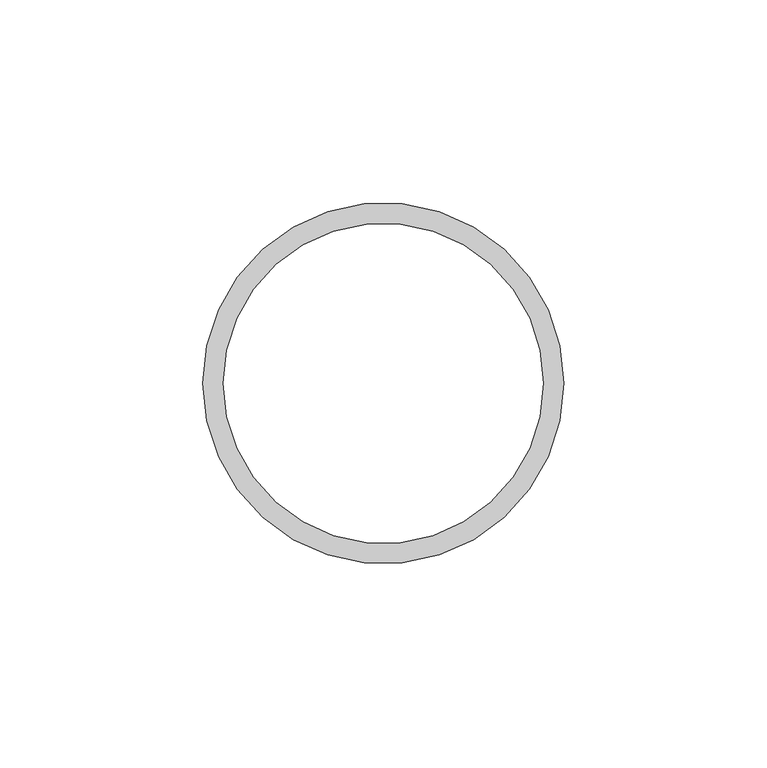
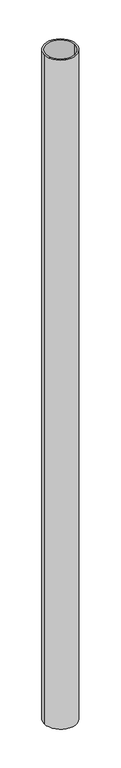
"""IFC4 building model written with IfcOpenShell, lengths in millimetres: column geometry, NLRS_28_SC_TLB_kolom buis_generiek_ISR : ø88.9x5 ."""

import ifcopenshell
import ifcopenshell.guid

model = None  # the IFC model being written
_history = None  # IfcOwnerHistory: only IFC2X3 demands one
_inside = {}  # id of a spatial element -> (the spatial element, [elements in it])
_under = {}  # id of a project, library or spatial element -> (it, [spatial elements below it])
_declared = {}  # id of a project -> (the project, [libraries it declares])
_typed = {}  # id of a type object -> (the type object, [elements of that type])
_made_of = {}  # id of a material, layer set ... -> (it, [elements and type objects made of it])


def new_model(schema):
    """Start an empty IFC model of exactly this schema.

    Asked for "IFC4X3", IfcOpenShell would pick the latest addendum, in which some entities
    have other attributes; the version numbers below select the first issue.
    IFC2X3 requires an IfcOwnerHistory on every rooted entity: one is made here for all.
    """
    global model, _history
    if schema == "IFC4X3":
        model = ifcopenshell.file(schema_version=(4, 3, 0, 0))
    else:
        model = ifcopenshell.file(schema=schema)
    _inside.clear()
    _under.clear()
    _declared.clear()
    _typed.clear()
    _made_of.clear()
    _history = None
    if model.schema == "IFC2X3":
        org = make("IfcOrganization", Name="unknown")
        user = make(
            "IfcPersonAndOrganization",
            ThePerson=make("IfcPerson", FamilyName="unknown"),
            TheOrganization=org,
        )
        app = make(
            "IfcApplication",
            ApplicationDeveloper=org,
            Version="unknown",
            ApplicationFullName="unknown",
            ApplicationIdentifier="unknown",
        )
        _history = make(
            "IfcOwnerHistory",
            OwningUser=user,
            OwningApplication=app,
            ChangeAction="ADDED",
            CreationDate=0,
        )
    return model


def make(cls, **values):
    """One entity of the class cls with the attributes given. An attribute that is None is left unset."""
    return model.create_entity(
        cls, **{name: value for name, value in values.items() if value is not None}
    )


def rooted(cls, **values):
    """An entity with a GlobalId (a new one), such as an element, a storey or a relation."""
    return make(cls, GlobalId=ifcopenshell.guid.new(), OwnerHistory=_history, **values)


def si_unit(unit_type, name, prefix=None):
    """IfcSIUnit, for example si_unit("LENGTHUNIT", "METRE", prefix="MILLI")."""
    return make("IfcSIUnit", UnitType=unit_type, Prefix=prefix, Name=name)


def assignment(units):
    """IfcUnitAssignment: the units of a project."""
    return None if units is None else make("IfcUnitAssignment", Units=units)


def point(xyz):
    """IfcCartesianPoint."""
    return None if xyz is None else make("IfcCartesianPoint", Coordinates=xyz)


def direction(xyz):
    """IfcDirection."""
    return None if xyz is None else make("IfcDirection", DirectionRatios=xyz)


def frame(location, z_axis=None, x_axis=None):
    """IfcAxis2Placement3D, a coordinate frame: its origin and axes. An axis left out is left unset."""
    return make(
        "IfcAxis2Placement3D",
        Location=point(location),
        Axis=direction(z_axis),
        RefDirection=direction(x_axis),
    )


def frame_2d(location, x_axis=None):
    """IfcAxis2Placement2D, a coordinate frame in the plane: its origin and x axis."""
    return make(
        "IfcAxis2Placement2D", Location=point(location), RefDirection=direction(x_axis)
    )


def origin():
    """The frame at (0, 0, 0) with its axes left unset."""
    return frame((0.0, 0.0, 0.0))


def origin_2d():
    """The frame at (0, 0) in the plane with its x axis left unset."""
    return frame_2d((0.0, 0.0))


def place(relative_to, where):
    """IfcLocalPlacement: puts the frame where relative to a parent placement (None: the world)."""
    return make(
        "IfcLocalPlacement", PlacementRelTo=relative_to, RelativePlacement=where
    )


def context(
    kind, dimensions, precision=None, world=None, true_north=None, identifier=None
):
    """IfcGeometricRepresentationContext, for example the 3D "Model" context."""
    return make(
        "IfcGeometricRepresentationContext",
        ContextIdentifier=identifier,
        ContextType=kind,
        CoordinateSpaceDimension=dimensions,
        Precision=precision,
        WorldCoordinateSystem=world,
        TrueNorth=true_north,
    )


def project(units=None, contexts=None):
    """IfcProject with its units and contexts."""
    return rooted(
        "IfcProject",
        Name="project",
        RepresentationContexts=contexts,
        UnitsInContext=assignment(units),
    )


def spatial(cls, under=None, at=None, **own):
    """A site, building, storey or space (cls), placed at a placement, below another one or the project."""
    s = rooted(cls, ObjectPlacement=at, **own)
    if under is not None:
        _under.setdefault(under.id(), (under, []))[1].append(s)
    return s


def circle_curve(where, radius):
    """IfcCircle in the frame where."""
    return make("IfcCircle", Position=where, Radius=radius)


def trimmed(basis, trim1, trim2, sense, master):
    """IfcTrimmedCurve: the piece of a basis curve between two trims."""
    return make(
        "IfcTrimmedCurve",
        BasisCurve=basis,
        Trim1=trim1,
        Trim2=trim2,
        SenseAgreement=sense,
        MasterRepresentation=master,
    )


def segment(curve, same_sense, transition):
    """IfcCompositeCurveSegment."""
    return make(
        "IfcCompositeCurveSegment",
        Transition=transition,
        SameSense=same_sense,
        ParentCurve=curve,
    )


def composite_curve(segments, self_intersect=None):
    """IfcCompositeCurve: segments joined end to end."""
    return make("IfcCompositeCurve", Segments=segments, SelfIntersect=self_intersect)


def outline(outer, holes=None, kind="AREA"):
    """IfcArbitraryClosedProfileDef: a profile drawn as a closed curve; with holes, ...WithVoids."""
    if holes is None:
        return make("IfcArbitraryClosedProfileDef", ProfileType=kind, OuterCurve=outer)
    return make(
        "IfcArbitraryProfileDefWithVoids",
        ProfileType=kind,
        OuterCurve=outer,
        InnerCurves=holes,
    )


def extrude(swept, where, along, depth):
    """IfcExtrudedAreaSolid: the profile swept, set in the frame where, extruded along a direction by depth."""
    return make(
        "IfcExtrudedAreaSolid",
        SweptArea=swept,
        Position=where,
        ExtrudedDirection=direction(along),
        Depth=depth,
    )


def shape(context_of_items, identifier, shape_type, items):
    """IfcShapeRepresentation: the items that make up one representation, for example the "Body"."""
    return make(
        "IfcShapeRepresentation",
        ContextOfItems=context_of_items,
        RepresentationIdentifier=identifier,
        RepresentationType=shape_type,
        Items=items,
    )


def source(mapping_origin, context_of_items, identifier, shape_type, items):
    """IfcRepresentationMap: a shape defined once, which mapped items show again and again."""
    return make(
        "IfcRepresentationMap",
        MappingOrigin=mapping_origin,
        MappedRepresentation=shape(context_of_items, identifier, shape_type, items),
    )


def transform(
    local_origin,
    x_axis=None,
    y_axis=None,
    z_axis=None,
    scale=None,
    scale2=None,
    scale3=None,
    uniform=True,
):
    """IfcCartesianTransformationOperator3D, or its non-uniform kind. x_axis, y_axis, z_axis: its Axis1, 2, 3."""
    if uniform:
        return make(
            "IfcCartesianTransformationOperator3D",
            Axis1=direction(x_axis),
            Axis2=direction(y_axis),
            LocalOrigin=point(local_origin),
            Scale=scale,
            Axis3=direction(z_axis),
        )
    return make(
        "IfcCartesianTransformationOperator3DnonUniform",
        Axis1=direction(x_axis),
        Axis2=direction(y_axis),
        LocalOrigin=point(local_origin),
        Scale=scale,
        Axis3=direction(z_axis),
        Scale2=scale2,
        Scale3=scale3,
    )


def mapped(mapping_source, mapping_target):
    """IfcMappedItem: shows the shape of a source again, moved by a transform."""
    return make(
        "IfcMappedItem", MappingSource=mapping_source, MappingTarget=mapping_target
    )


def made_of(thing, what):
    """Note that an element or type object is made of a material, layer set ...; save() writes the relation."""
    if what is not None:
        _made_of.setdefault(what.id(), (what, []))[1].append(thing)
    return thing


def element(
    cls,
    number,
    at=None,
    inside=None,
    cuts=None,
    type_object=None,
    material=None,
    context=None,
    identifier="Body",
    shape_type=None,
    held_by="IfcProductDefinitionShape",
    body=None,
    shapes=None,
    **own,
):
    """One element of the class cls, such as IfcWall. Its Tag is "e" and its number.

    at: its placement. inside: the storey or other place that contains it. cuts: it is an
    opening in that element (IfcRelVoidsElement). A single representation is given by context,
    identifier, shape_type and body (its items); several are given by shapes. held_by: the class
    of the entity that holds the representations. save() writes the other relations.
    """
    e = rooted(cls, Tag="e%d" % number, ObjectPlacement=at, **own)
    if body is not None:
        shapes = [shape(context, identifier, shape_type, body)]
    if shapes is not None:
        e.Representation = make(held_by, Representations=shapes)
    if inside is not None:
        _inside.setdefault(inside.id(), (inside, []))[1].append(e)
    if cuts is not None:
        rooted(
            "IfcRelVoidsElement", RelatingBuildingElement=cuts, RelatedOpeningElement=e
        )
    if type_object is not None:
        _typed.setdefault(type_object.id(), (type_object, []))[1].append(e)
    return made_of(e, material)


def aggregate(whole, parts):
    """IfcRelAggregates: a whole, such as a stair, and the parts it consists of."""
    return rooted("IfcRelAggregates", RelatingObject=whole, RelatedObjects=parts)


def save(model, path):
    """Write the relations noted so far, then the file.

    IfcRelAggregates (storeys below a building ...), IfcRelContainedInSpatialStructure (elements
    in a storey), IfcRelDefinesByType, IfcRelAssociatesMaterial and IfcRelDeclares: one each for
    every whole, place, type object, material and project.
    """
    for whole, parts in _under.values():
        aggregate(whole, parts)
    for where, things in _inside.values():
        rooted(
            "IfcRelContainedInSpatialStructure",
            RelatedElements=things,
            RelatingStructure=where,
        )
    for kind, things in _typed.values():
        rooted("IfcRelDefinesByType", RelatedObjects=things, RelatingType=kind)
    for what, things in _made_of.values():
        rooted("IfcRelAssociatesMaterial", RelatedObjects=things, RelatingMaterial=what)
    for by, libraries in _declared.values():
        rooted("IfcRelDeclares", RelatingContext=by, RelatedDefinitions=libraries)
    model.write(path)


def column_413da511(model_context):
    return source(origin(), model_context, "Body", "SweptSolid", [
        extrude(outline(composite_curve([segment(trimmed(circle_curve(origin_2d(), 44.45), [point((44.45, 0.0))], [point((-44.45, 0.0))], False, "CARTESIAN"), True, "CONTINUOUS"), segment(trimmed(circle_curve(origin_2d(), 44.45), [point((-44.45, 0.0))], [point((44.45, 0.0))], False, "CARTESIAN"), True, "CONTINUOUS")], self_intersect=False), holes=[composite_curve([segment(trimmed(circle_curve(origin_2d(), 39.45), [point((39.45, 0.0))], [point((-39.45, 0.0))], True, "CARTESIAN"), True, "CONTINUOUS"), segment(trimmed(circle_curve(origin_2d(), 39.45), [point((-39.45, 0.0))], [point((39.45, 0.0))], True, "CARTESIAN"), True, "CONTINUOUS")], self_intersect=False)]), frame((0.0, 0.0, 5050.0), z_axis=(0.0, 0.0, 1.0), x_axis=(1.0, 0.0, 0.0)), (0.0, 0.0, 1.0), 1950.0),
    ])


if __name__ == "__main__":
    model = new_model("IFC4")
    model_context = context("Model", 3, world=origin())
    ifc_project = project(units=[si_unit("LENGTHUNIT", "METRE", prefix="MILLI")], contexts=[model_context])
    site = spatial("IfcSite", under=ifc_project)
    building = spatial("IfcBuilding", under=site)
    placement = place(None, origin())
    column_shape = column_413da511(model_context)
    element("IfcColumn", 1, ObjectType="NLRS_28_SC_TLB_kolom buis_generiek_ISR : ø88.9x5 ", at=placement, inside=building, context=model_context, shape_type="MappedRepresentation", body=[
        mapped(column_shape, transform((0.0, 0.0, 0.0), x_axis=(1.0, 0.0, 0.0), y_axis=(0.0, 1.0, 0.0), z_axis=(0.0, 0.0, 1.0))),
    ])
    save(model, "model.ifc")
